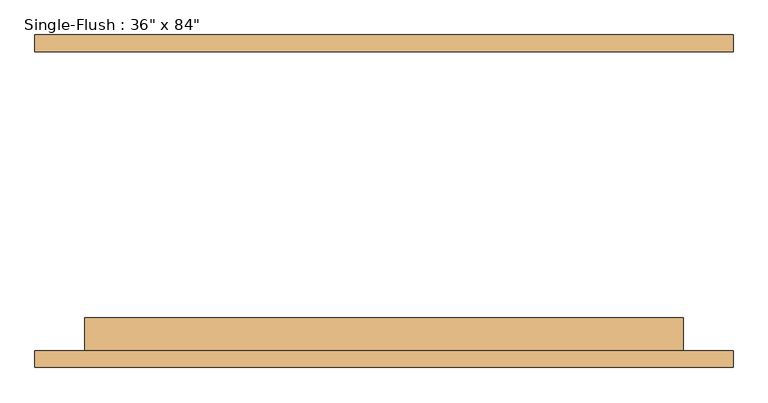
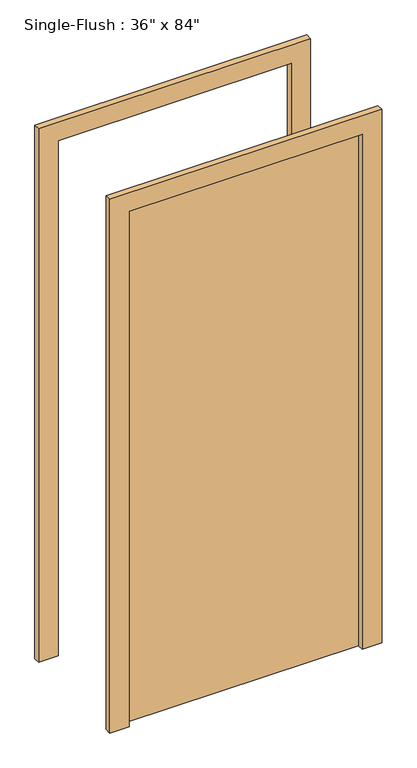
"""IFC4 building model written with IfcOpenShell, lengths in millimetres: door geometry."""

from ifc_helpers import new_model, si_unit, frame, origin, origin_with_axes, place, context, project, spatial, polyline, outline, extrude, source, transform, mapped, element, save


def door_aec9db07(model_context):
    return source(origin(), model_context, "Body", "SweptSolid", [
        extrude(outline(polyline([(2209.8, -533.4), (0.0, -533.4), (0.0, -457.2), (2133.6, -457.2), (2133.6, 457.2), (0.0, 457.2), (0.0, 533.4), (2209.8, 533.4), (2209.8, -533.4)])), frame((0.0, -254.0, 0.0), z_axis=(0.0, 1.0, 0.0), x_axis=(0.0, 0.0, 1.0)), (0.0, 0.0, 1.0), 25.4),
        extrude(outline(polyline([(2209.8, 533.4), (2209.8, -533.4), (0.0, -533.4), (0.0, -457.2), (2133.6, -457.2), (2133.6, 457.2), (0.0, 457.2), (0.0, 533.4), (2209.8, 533.4)])), frame((0.0, 228.6, 0.0), z_axis=(0.0, 1.0, 0.0), x_axis=(0.0, 0.0, 1.0)), (0.0, 0.0, 1.0), 25.4),
        extrude(outline(polyline([(457.2, -177.8), (457.2, -228.6), (-457.2, -228.6), (-457.2, -177.8), (457.2, -177.8)])), origin_with_axes(), (0.0, 0.0, 1.0), 2133.6),
    ])


if __name__ == "__main__":
    model = new_model("IFC4")
    model_context = context("Model", 3, world=origin())
    ifc_project = project(units=[si_unit("LENGTHUNIT", "METRE", prefix="MILLI")], contexts=[model_context])
    site = spatial("IfcSite", under=ifc_project)
    building = spatial("IfcBuilding", under=site)
    placement = place(None, origin())
    door_shape = door_aec9db07(model_context)
    element("IfcDoor", 1, ObjectType="Single-Flush : 36\" x 84\"", at=placement, inside=building, context=model_context, shape_type="MappedRepresentation", body=[
        mapped(door_shape, transform((0.0, 0.0, 0.0), x_axis=(1.0, 0.0, 0.0), y_axis=(0.0, 1.0, 0.0), z_axis=(0.0, 0.0, 1.0))),
    ])
    save(model, "model.ifc")
